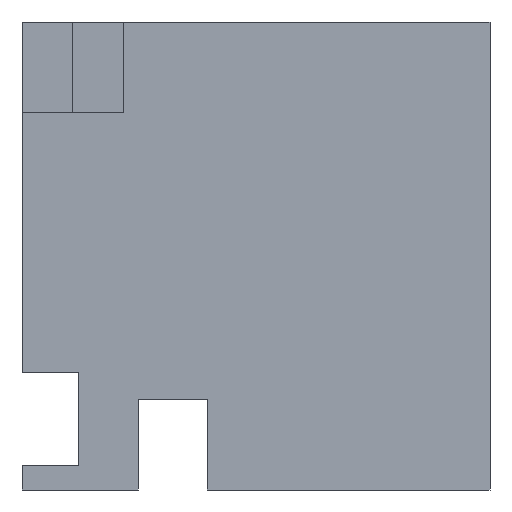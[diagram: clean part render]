
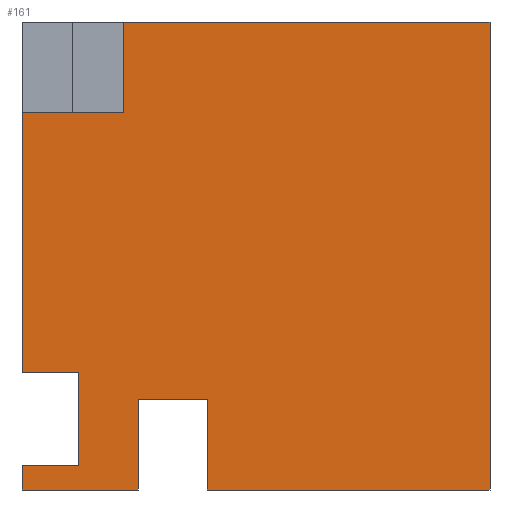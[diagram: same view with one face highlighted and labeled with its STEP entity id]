
A CAD part, front view. The second image highlights one B-rep face of the part: STEP entity #161.
In plain terms, the highlighted planar face has unit normal (0, -1, 0).
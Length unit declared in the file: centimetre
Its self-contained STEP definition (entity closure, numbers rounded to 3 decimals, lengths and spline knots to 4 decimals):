
#2 = VECTOR ( 'NONE', #867, 100. ) ;
#10 = ORIENTED_EDGE ( 'NONE', *, *, #410, .T. ) ;
#13 = DIRECTION ( 'NONE',  ( 0., 0., -1. ) ) ;
#23 = EDGE_CURVE ( 'NONE', #776, #766, #970, .T. ) ;
#24 = CARTESIAN_POINT ( 'NONE',  ( 0., 0., 1000. ) ) ;
#30 = EDGE_LOOP ( 'NONE', ( #77, #10, #765, #107, #285, #203, #73, #388, #238, #602, #112, #189, #221, #278 ) ) ;
#32 = LINE ( 'NONE', #619, #796 ) ;
#56 = VERTEX_POINT ( 'NONE', #98 ) ;
#64 = CARTESIAN_POINT ( 'NONE',  ( 0., 0., 0. ) ) ;
#65 = DIRECTION ( 'NONE',  ( 0., 0., -1. ) ) ;
#69 = DIRECTION ( 'NONE',  ( 1., 0., 0. ) ) ;
#73 = ORIENTED_EDGE ( 'NONE', *, *, #167, .F. ) ;
#75 = LINE ( 'NONE', #339, #295 ) ;
#77 = ORIENTED_EDGE ( 'NONE', *, *, #428, .T. ) ;
#88 = VERTEX_POINT ( 'NONE', #800 ) ;
#90 = DIRECTION ( 'NONE',  ( 1., 0., 0. ) ) ;
#92 = LINE ( 'NONE', #451, #2 ) ;
#98 = CARTESIAN_POINT ( 'NONE',  ( 0., 0., 0. ) ) ;
#107 = ORIENTED_EDGE ( 'NONE', *, *, #973, .T. ) ;
#112 = ORIENTED_EDGE ( 'NONE', *, *, #433, .T. ) ;
#114 = VERTEX_POINT ( 'NONE', #177 ) ;
#142 = VERTEX_POINT ( 'NONE', #628 ) ;
#147 = CARTESIAN_POINT ( 'NONE',  ( 248.5461, 0., 193.2179 ) ) ;
#161 = ADVANCED_FACE ( 'NONE', ( #1073 ), #284, .F. ) ;
#163 = CARTESIAN_POINT ( 'NONE',  ( 0., 0., 806.5365 ) ) ;
#165 = LINE ( 'NONE', #254, #851 ) ;
#167 = EDGE_CURVE ( 'NONE', #88, #383, #804, .T. ) ;
#177 = CARTESIAN_POINT ( 'NONE',  ( 396.0402, 0., 193.2179 ) ) ;
#183 = EDGE_CURVE ( 'NONE', #766, #88, #1066, .T. ) ;
#189 = ORIENTED_EDGE ( 'NONE', *, *, #489, .T. ) ;
#200 = VECTOR ( 'NONE', #90, 100. ) ;
#202 = VECTOR ( 'NONE', #1026, 100. ) ;
#203 = ORIENTED_EDGE ( 'NONE', *, *, #599, .F. ) ;
#221 = ORIENTED_EDGE ( 'NONE', *, *, #1020, .T. ) ;
#225 = CARTESIAN_POINT ( 'NONE',  ( 121.7621, 0., 250.5827 ) ) ;
#238 = ORIENTED_EDGE ( 'NONE', *, *, #23, .F. ) ;
#240 = CARTESIAN_POINT ( 'NONE',  ( 248.5461, 0., 0. ) ) ;
#254 = CARTESIAN_POINT ( 'NONE',  ( 0., 0., 53.1337 ) ) ;
#275 = CARTESIAN_POINT ( 'NONE',  ( 1000., 0., 0. ) ) ;
#278 = ORIENTED_EDGE ( 'NONE', *, *, #889, .T. ) ;
#284 = PLANE ( 'NONE',  #298 ) ;
#285 = ORIENTED_EDGE ( 'NONE', *, *, #695, .T. ) ;
#290 = DIRECTION ( 'NONE',  ( 0., 0., 1. ) ) ;
#291 = VERTEX_POINT ( 'NONE', #225 ) ;
#293 = LINE ( 'NONE', #1083, #779 ) ;
#295 = VECTOR ( 'NONE', #1036, 100. ) ;
#298 = AXIS2_PLACEMENT_3D ( 'NONE', #634, #816, #290 ) ;
#339 = CARTESIAN_POINT ( 'NONE',  ( 0., 0., 1000. ) ) ;
#340 = VECTOR ( 'NONE', #863, 100. ) ;
#352 = CARTESIAN_POINT ( 'NONE',  ( 248.5461, 0., 0. ) ) ;
#374 = VECTOR ( 'NONE', #65, 100. ) ;
#381 = CARTESIAN_POINT ( 'NONE',  ( 217.2033, 0., 806.5365 ) ) ;
#383 = VERTEX_POINT ( 'NONE', #431 ) ;
#388 = ORIENTED_EDGE ( 'NONE', *, *, #183, .F. ) ;
#410 = EDGE_CURVE ( 'NONE', #1105, #430, #1022, .T. ) ;
#414 = VECTOR ( 'NONE', #988, 100. ) ;
#426 = CARTESIAN_POINT ( 'NONE',  ( 396.0402, 0., 0. ) ) ;
#428 = EDGE_CURVE ( 'NONE', #56, #1105, #965, .T. ) ;
#430 = VERTEX_POINT ( 'NONE', #147 ) ;
#431 = CARTESIAN_POINT ( 'NONE',  ( 1000., 0., 1000. ) ) ;
#433 = EDGE_CURVE ( 'NONE', #467, #291, #857, .T. ) ;
#447 = VERTEX_POINT ( 'NONE', #696 ) ;
#451 = CARTESIAN_POINT ( 'NONE',  ( 248.5461, 0., 193.2179 ) ) ;
#465 = DIRECTION ( 'NONE',  ( 0., 0., 1. ) ) ;
#467 = VERTEX_POINT ( 'NONE', #957 ) ;
#489 = EDGE_CURVE ( 'NONE', #291, #641, #32, .T. ) ;
#509 = LINE ( 'NONE', #426, #340 ) ;
#576 = CARTESIAN_POINT ( 'NONE',  ( 0., 0., 806.5365 ) ) ;
#579 = VERTEX_POINT ( 'NONE', #275 ) ;
#588 = DIRECTION ( 'NONE',  ( 0., 0., 1. ) ) ;
#599 = EDGE_CURVE ( 'NONE', #383, #579, #879, .T. ) ;
#602 = ORIENTED_EDGE ( 'NONE', *, *, #978, .T. ) ;
#619 = CARTESIAN_POINT ( 'NONE',  ( 121.7621, 0., 53.1337 ) ) ;
#622 = CARTESIAN_POINT ( 'NONE',  ( 121.7621, 0., 53.1337 ) ) ;
#628 = CARTESIAN_POINT ( 'NONE',  ( 396.0402, 0., 0. ) ) ;
#634 = CARTESIAN_POINT ( 'NONE',  ( 0., 0., 1000. ) ) ;
#638 = CARTESIAN_POINT ( 'NONE',  ( 217.2033, 0., 806.5365 ) ) ;
#641 = VERTEX_POINT ( 'NONE', #622 ) ;
#695 = EDGE_CURVE ( 'NONE', #142, #579, #293, .T. ) ;
#696 = CARTESIAN_POINT ( 'NONE',  ( 0., 0., 53.1337 ) ) ;
#734 = DIRECTION ( 'NONE',  ( 1., 0., 0. ) ) ;
#746 = VECTOR ( 'NONE', #588, 100. ) ;
#765 = ORIENTED_EDGE ( 'NONE', *, *, #1077, .T. ) ;
#766 = VERTEX_POINT ( 'NONE', #638 ) ;
#772 = CARTESIAN_POINT ( 'NONE',  ( 0., 0., 250.5827 ) ) ;
#776 = VERTEX_POINT ( 'NONE', #576 ) ;
#779 = VECTOR ( 'NONE', #734, 100. ) ;
#796 = VECTOR ( 'NONE', #13, 100. ) ;
#800 = CARTESIAN_POINT ( 'NONE',  ( 217.2033, 0., 1000. ) ) ;
#804 = LINE ( 'NONE', #24, #414 ) ;
#805 = DIRECTION ( 'NONE',  ( 0., 0., -1. ) ) ;
#816 = DIRECTION ( 'NONE',  ( 0., 1., 0. ) ) ;
#851 = VECTOR ( 'NONE', #958, 100. ) ;
#857 = LINE ( 'NONE', #772, #1029 ) ;
#863 = DIRECTION ( 'NONE',  ( 0., 0., -1. ) ) ;
#867 = DIRECTION ( 'NONE',  ( 1., 0., 0. ) ) ;
#879 = LINE ( 'NONE', #894, #1114 ) ;
#889 = EDGE_CURVE ( 'NONE', #447, #56, #1016, .T. ) ;
#894 = CARTESIAN_POINT ( 'NONE',  ( 1000., 0., 1000. ) ) ;
#957 = CARTESIAN_POINT ( 'NONE',  ( 0., 0., 250.5827 ) ) ;
#958 = DIRECTION ( 'NONE',  ( -1., 0., 0. ) ) ;
#965 = LINE ( 'NONE', #64, #202 ) ;
#970 = LINE ( 'NONE', #163, #200 ) ;
#973 = EDGE_CURVE ( 'NONE', #114, #142, #509, .T. ) ;
#978 = EDGE_CURVE ( 'NONE', #776, #467, #75, .T. ) ;
#979 = VECTOR ( 'NONE', #465, 100. ) ;
#988 = DIRECTION ( 'NONE',  ( 1., 0., 0. ) ) ;
#1016 = LINE ( 'NONE', #1121, #374 ) ;
#1020 = EDGE_CURVE ( 'NONE', #641, #447, #165, .T. ) ;
#1022 = LINE ( 'NONE', #240, #746 ) ;
#1026 = DIRECTION ( 'NONE',  ( 1., 0., 0. ) ) ;
#1029 = VECTOR ( 'NONE', #69, 100. ) ;
#1036 = DIRECTION ( 'NONE',  ( 0., 0., -1. ) ) ;
#1066 = LINE ( 'NONE', #381, #979 ) ;
#1073 = FACE_OUTER_BOUND ( 'NONE', #30, .T. ) ;
#1077 = EDGE_CURVE ( 'NONE', #430, #114, #92, .T. ) ;
#1083 = CARTESIAN_POINT ( 'NONE',  ( 0., 0., 0. ) ) ;
#1105 = VERTEX_POINT ( 'NONE', #352 ) ;
#1114 = VECTOR ( 'NONE', #805, 100. ) ;
#1121 = CARTESIAN_POINT ( 'NONE',  ( 0., 0., 1000. ) ) ;
